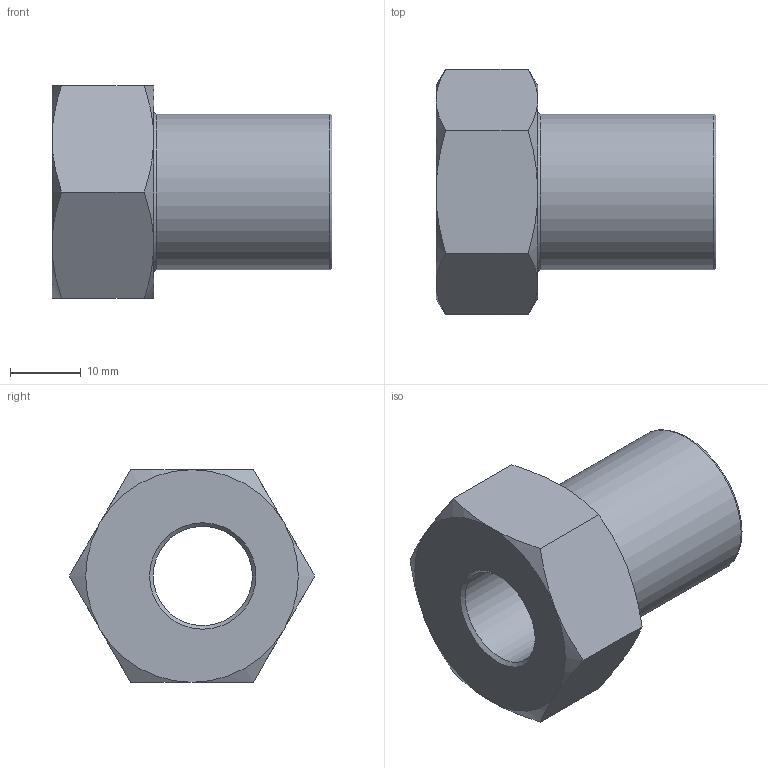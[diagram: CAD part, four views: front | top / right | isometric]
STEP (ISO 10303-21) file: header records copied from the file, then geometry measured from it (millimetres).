
FILE_DESCRIPTION( ( 'STEP AP214' ), '1' );
FILE_NAME( 'p:/temp/worker_32/temp/app_55_02019012316274864454663192d056f_000000_00_00_000000/format_0/MBX4XLSS.stp', '2019-01-23T15:27:49', ( '' ), ( '' ), ' ', 'PARTsolutions', ' ' );
FILE_SCHEMA( ( 'AUTOMOTIVE_DESIGN { 1 0 10303 214 1 1 1 1 }' ) );
Length unit declared in the file: inch
Products named in the file (1): _MBX4XLSS
Bounding box: 39.5 x 34.64 x 30 mm (x, y, z)
Volume: 14585.9 mm3; surface area: 6095.1 mm2
Topology: 1 solids, 1 shells, 27 faces, 56 edges, 32 vertices
Faces by surface type: cone 14, plane 9, torus 2, cylinder 2
Full cylindrical faces by diameter (mm): 14 x1, 21.99 x1
Entity records: 1012 total; most frequent: CARTESIAN_POINT 262, DIRECTION 102, ORIENTED_EDGE 100, EDGE_CURVE 50, AXIS2_PLACEMENT_3D 48, EDGE_LOOP 36, VERTEX_POINT 32, FACE_OUTER_BOUND 31
